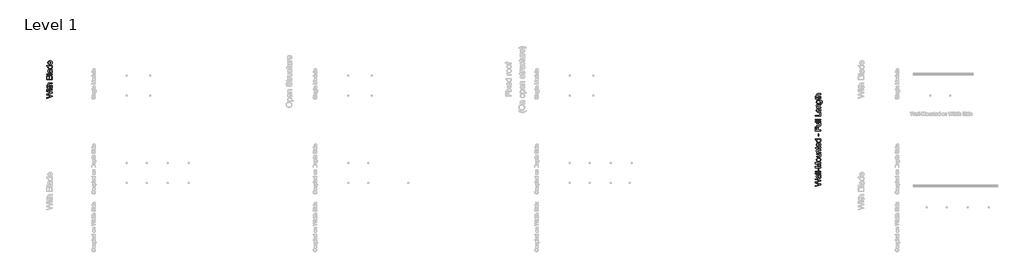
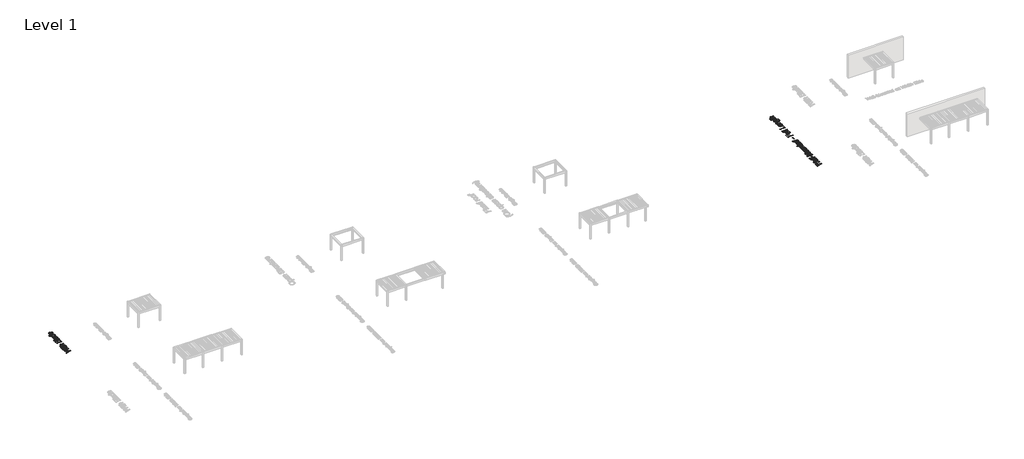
# One storey, part 50 of 80: 2 proxies.
"""IFC4 building model written with IfcOpenShell, lengths in millimetres."""

from ifc_helpers import new_model, si_unit, origin, origin_with_axes, place, context, project, spatial, polyline, outline, extrude, element, save

model = new_model("IFC4")

# Units and contexts
model_context = context("Model", 3, world=origin())
ifc_project = project(units=[si_unit("LENGTHUNIT", "METRE", prefix="MILLI")], contexts=[model_context])

# Site, building, storey
site = spatial("IfcSite", under=ifc_project)
building = spatial("IfcBuilding", under=site)
storey = spatial("IfcBuildingStorey", under=building, Name="Level 1", Elevation=0.0)

# Proxies
placement = place(None, origin())
element("IfcBuildingElementProxy", 1, Name="800mm Arial", ObjectType="800mm Arial", at=placement, inside=storey, context=model_context, shape_type="SweptSolid", body=[
    extrude(outline(polyline([(4831.971127, 65919.511302), (4032.5824286, 65701.5139446), (4032.5824286, 65804.560144), (4557.9619149, 65931.0259342), (4720.142581, 65970.0585854), (4576.6975875, 66011.8235223), (4032.5824286, 66170.2960865), (4032.5824286, 66318.8153247), (4427.0073699, 66433.961646), (4573.3798122, 66483.289159), (4720.142581, 66519.6383156), (4562.6458331, 66557.4999873), (4032.5824286, 66685.136757), (4032.5824286, 66788.1829564), (4831.971127, 66569.9904357), (4831.971127, 66463.2361344), (4215.2552366, 66271.5858166), (4129.1882405, 66244.8484505), (4232.8199297, 66214.793309), (4831.971127, 66040.1221945), (4831.971127, 65919.511302)])), origin_with_axes(), (0.0, 0.0, 1.0), 5.0),
    extrude(outline(polyline([(4831.971127, 66875.6160953), (4244.9200516, 66875.6160953), (4244.9200516, 66975.5396826), (4831.971127, 66975.5396826), (4831.971127, 66875.6160953)])), origin_with_axes(), (0.0, 0.0, 1.0), 5.0),
    extrude(outline(polyline([(4132.5060159, 66875.6160953), (4032.5824286, 66875.6160953), (4032.5824286, 66975.5396826), (4132.5060159, 66975.5396826), (4132.5060159, 66875.6160953)])), origin_with_axes(), (0.0, 0.0, 1.0), 5.0),
    extrude(outline(polyline([(4748.6364165, 67337.7626865), (4834.8985758, 67350.2531349), (4842.0708255, 67310.6837847), (4844.4615754, 67275.5056077), (4840.3143562, 67227.5442374), (4827.8726986, 67191.7805707), (4808.6979086, 67166.506929), (4784.3512924, 67150.0156338), (4742.5375647, 67140.9405424), (4670.9614404, 67137.9155119), (4344.8436389, 67137.9155119), (4344.8436389, 67062.9728215), (4244.9200516, 67062.9728215), (4244.9200516, 67137.9155119), (4102.2557112, 67137.9155119), (4043.511571, 67237.8390992), (4244.9200516, 67237.8390992), (4244.9200516, 67337.7626865), (4344.8436389, 67337.7626865), (4344.8436389, 67237.8390992), (4668.0339916, 67237.8390992), (4700.9190003, 67239.1564512), (4719.5570913, 67243.1085071), (4729.8763484, 67250.0124073), (4737.8048557, 67260.1852921), (4742.854705, 67274.6029776), (4744.5379881, 67294.2412803), (4748.6364165, 67337.7626865)])), origin_with_axes(), (0.0, 0.0, 1.0), 5.0),
    extrude(outline(polyline([(4831.971127, 67437.6862738), (4032.5824286, 67437.6862738), (4032.5824286, 67537.6098611), (4326.4982928, 67537.6098611), (4285.3432411, 67574.312751), (4255.9467756, 67615.5287912), (4238.3088963, 67661.2579817), (4232.4296032, 67711.5003226), (4234.0336012, 67742.7386413), (4238.8455953, 67771.8545596), (4246.8655853, 67798.8480775), (4258.0935714, 67823.719195), (4272.1514247, 67845.8336315), (4288.6610165, 67864.5571064), (4307.6223466, 67879.8896198), (4329.0354151, 67891.8311715), (4354.2236729, 67900.7964836), (4384.5105708, 67907.200278), (4460.3802867, 67912.3233134), (4831.971127, 67912.3233134), (4831.971127, 67812.3997262), (4470.7239393, 67812.3997262), (4436.9850913, 67810.4115005), (4408.1741156, 67804.4468235), (4384.2910121, 67794.5056951), (4365.3357808, 67780.5881154), (4350.9058976, 67763.0234223), (4340.5988381, 67742.1409538), (4334.4146024, 67717.94071), (4332.3531905, 67690.4226909), (4337.9153433, 67648.1942413), (4354.6018017, 67608.5517048), (4366.7141213, 67590.7552554), (4380.8024689, 67575.7154869), (4396.8668444, 67563.4323995), (4414.907248, 67553.905993), (4460.2339143, 67541.6838941), (4520.1002432, 67537.6098611), (4831.971127, 67537.6098611), (4831.971127, 67437.6862738)])), origin_with_axes(), (0.0, 0.0, 1.0), 5.0),
    extrude(outline(polyline([(4831.971127, 68374.4699047), (4032.5824286, 68374.4699047), (4032.5824286, 68679.5100745), (4034.0522519, 68723.757244), (4038.4617217, 68763.4058793), (4045.8108381, 68798.4559804), (4056.099601, 68828.9075473), (4069.4377898, 68855.5351341), (4085.9351838, 68879.113295), (4105.5917831, 68899.64203), (4128.4075875, 68917.1213392), (4153.0957395, 68931.0816109), (4178.3693812, 68941.0532335), (4204.2285126, 68947.0362071), (4230.6731339, 68949.0305316), (4255.0990352, 68947.3533474), (4278.805272, 68942.3217947), (4301.7918443, 68933.9358735), (4324.0587521, 68922.1955838), (4344.9107263, 68907.0643326), (4363.6524977, 68888.5055267), (4380.2840665, 68866.5191661), (4394.8054326, 68841.1052508), (4407.6618121, 68871.2640728), (4424.3726659, 68897.7269906), (4444.937994, 68920.4940042), (4469.3577965, 68939.5651137), (4496.8880134, 68954.6353764), (4526.7845847, 68965.3998497), (4559.0475105, 68971.8585338), (4593.6767909, 68974.0114284), (4649.420296, 68968.1321353), (4701.1141635, 68950.494256), (4745.074687, 68924.1716118), (4777.61816, 68892.238024), (4801.1841233, 68853.1321865), (4818.2121174, 68805.2927932), (4828.5313746, 68747.1585382), (4831.971127, 68677.1681154), (4831.971127, 68374.4699047)]), holes=[polyline([(4732.0475397, 68474.393492), (4732.0475397, 68679.3149112), (4728.1442745, 68753.4769487), (4719.483905, 68787.898868), (4706.3835714, 68816.2219356), (4687.6235034, 68839.2511999), (4661.9839306, 68857.7917092), (4630.6114371, 68870.0138082), (4594.6526071, 68874.0878411), (4552.8876703, 68869.3063414), (4516.9776311, 68854.961842), (4501.7122051, 68843.9168215), (4488.8985176, 68829.907759), (4478.5365684, 68812.9346545), (4470.6263577, 68792.9975081), (4460.5998454, 68740.7181508), (4457.2576746, 68669.5567484), (4457.2576746, 68474.393492), (4732.0475397, 68474.393492)]), polyline([(4357.3340873, 68474.393492), (4357.3340873, 68656.8711367), (4355.1872915, 68720.6895216), (4348.746904, 68763.4302747), (4333.938892, 68800.7308521), (4311.7634669, 68827.5414045), (4282.5621647, 68843.7155594), (4246.6765209, 68849.1069443), (4211.8398796, 68844.0814905), (4181.4919933, 68829.0051289), (4157.804053, 68804.560931), (4142.9472501, 68771.4319683), (4135.1163245, 68720.59194), (4132.5060159, 68643.0145455), (4132.5060159, 68474.393492), (4357.3340873, 68474.393492)])]), origin_with_axes(), (0.0, 0.0, 1.0), 5.0),
    extrude(outline(polyline([(4831.971127, 69098.9159125), (4032.5824286, 69098.9159125), (4032.5824286, 69198.8394998), (4831.971127, 69198.8394998), (4831.971127, 69098.9159125)])), origin_with_axes(), (0.0, 0.0, 1.0), 5.0),
    extrude(outline(polyline([(4757.0284365, 69723.4383331), (4797.9639295, 69675.6965215), (4813.125675, 69651.2950156), (4824.7500865, 69626.5397763), (4839.5337031, 69574.8459088), (4844.4615754, 69519.4927302), (4841.4975334, 69475.0016065), (4832.6054075, 69435.9872518), (4817.7851978, 69402.449666), (4797.0369041, 69374.388849), (4771.6778784, 69352.2317205), (4743.0254728, 69336.4052002), (4711.0796873, 69326.909288), (4675.8405218, 69323.743984), (4634.4171206, 69328.5254837), (4596.799403, 69342.8699831), (4564.5974656, 69364.9966173), (4539.4214056, 69393.1245216), (4520.3929881, 69426.1802982), (4506.6339785, 69463.090549), (4491.6064077, 69549.5478716), (4475.798184, 69651.7158364), (4457.2576746, 69722.8528434), (4435.0090634, 69723.4383331), (4410.7844242, 69721.7184569), (4390.4142593, 69716.5588283), (4373.8985687, 69707.9594473), (4361.2373524, 69695.920314), (4348.6005316, 69675.1110318), (4339.574231, 69649.7642038), (4334.1584506, 69619.8798302), (4332.3531905, 69585.4579108), (4337.1590857, 69525.9331176), (4343.1664547, 69502.9038534), (4351.5767713, 69484.363344), (4363.0487114, 69469.1284123), (4378.2409512, 69456.015881), (4397.1534905, 69445.0257501), (4419.7863294, 69436.1580197), (4407.295881, 69336.2344324), (4352.6501692, 69353.5795668), (4329.7184865, 69365.4540312), (4309.7142527, 69379.4630937), (4292.2349436, 69396.2105406), (4276.8780349, 69416.3001583), (4263.6435265, 69439.7319468), (4252.5314186, 69466.505906), (4237.4550571, 69527.9091456), (4232.4296032, 69598.3386858), (4236.8695673, 69665.8895679), (4250.1894595, 69719.4374864), (4270.2180887, 69759.811885), (4294.7842636, 69787.8422077), (4325.1565454, 69806.4315079), (4362.6034952, 69818.482839), (4397.1473916, 69822.1421501), (4450.0366341, 69823.3619204), (4574.3556285, 69823.3619204), (4682.6468404, 69824.6304816), (4747.9533451, 69828.4361651), (4790.8648661, 69835.9499505), (4831.971127, 69848.3428172), (4831.971127, 69748.4192299), (4797.2320673, 69732.4158429), (4757.0284365, 69723.4383331)]), holes=[polyline([(4557.1812619, 69723.4383331), (4573.8189295, 69656.3021729), (4587.8218932, 69562.2334833), (4595.482051, 69510.3932433), (4604.0204434, 69476.2640689), (4615.0959582, 69453.8934806), (4630.3674831, 69437.3289992), (4648.6640384, 69427.0829282), (4668.8146446, 69423.6675712), (4684.3423212, 69425.527721), (4698.5282504, 69431.1081704), (4711.3724322, 69440.4089193), (4722.8748666, 69453.4299679), (4732.3524823, 69470.0493389), (4739.1222077, 69490.1450555), (4744.5379881, 69540.7655251), (4738.5611133, 69594.4354206), (4731.0900199, 69618.9284093), (4720.6304892, 69641.8600919), (4694.2102633, 69680.3072535), (4662.7645836, 69707.0446196), (4630.3674831, 69718.9007874), (4585.4799341, 69722.8528434), (4557.1812619, 69723.4383331)])]), origin_with_axes(), (0.0, 0.0, 1.0), 5.0),
    extrude(outline(polyline([(4831.971127, 70322.9798569), (4737.7072741, 70322.9798569), (4784.4122809, 70293.0832855), (4802.7606764, 70275.765596), (4817.7730001, 70256.8683038), (4829.4492518, 70236.391409), (4837.7894315, 70214.3349116), (4842.7935394, 70190.6988116), (4844.4615754, 70165.4831089), (4842.0464301, 70132.5005186), (4834.8009942, 70100.8840711), (4822.7252677, 70070.6337663), (4805.8192506, 70041.7496044), (4784.5891476, 70015.1342153), (4759.5411634, 69991.6902291), (4730.675298, 69971.4176458), (4697.9915514, 69954.3164655), (4662.1120065, 69940.7404215), (4623.6587461, 69931.0432472), (4582.6317703, 69925.2249426), (4539.0310791, 69923.2855077), (4496.2293374, 69925.0724713), (4455.4524145, 69930.433362), (4416.7003104, 69939.3681798), (4379.9730251, 69951.8769248), (4346.3439564, 69967.953498), (4316.8865024, 69987.5918007), (4291.600663, 70010.7918328), (4270.4864382, 70037.5535944), (4253.8365729, 70066.9317633), (4241.943812, 70097.9810176), (4234.8081554, 70130.7013573), (4232.4296032, 70165.0927824), (4234.1311828, 70190.2444471), (4239.2359218, 70213.9811782), (4247.74382, 70236.3029756), (4259.6548775, 70257.2098395), (4290.9541847, 70293.8517409), (4330.4015579, 70322.9798569), (4032.5824286, 70322.9798569), (4032.5824286, 70422.9034442), (4831.971127, 70422.9034442), (4831.971127, 70322.9798569)]), holes=[polyline([(4538.6407525, 70023.209095), (4587.0961298, 70026.0267645), (4629.0257357, 70034.4797731), (4664.4295702, 70048.5681206), (4693.3076333, 70068.2918072), (4715.7209135, 70091.8455727), (4731.7303994, 70117.424157), (4741.3360909, 70145.0275601), (4744.5379881, 70174.655782), (4741.4824633, 70204.4242775), (4732.3158891, 70231.8630115), (4717.0382655, 70256.9719842), (4695.6495923, 70279.7511956), (4667.9791019, 70298.6637349), (4633.8560263, 70312.1726916), (4593.2803655, 70320.2780655), (4546.2521195, 70322.9798569), (4494.6924267, 70320.2292747), (4450.4757514, 70311.9775283), (4413.6020937, 70298.2246176), (4384.0714534, 70278.9705426), (4361.4447134, 70255.6912254), (4345.2827562, 70229.8625882), (4335.5855819, 70201.4846309), (4332.3531905, 70170.5573536), (4335.457506, 70140.343642), (4344.7704527, 70112.7402389), (4360.2920304, 70087.7471444), (4382.0222393, 70065.3643584), (4410.4367896, 70046.9214307), (4446.011392, 70033.7479108), (4488.7460463, 70025.843799), (4538.6407525, 70023.209095)])]), origin_with_axes(), (0.0, 0.0, 1.0), 5.0),
    extrude(outline(polyline([(4657.1048492, 70983.8026432), (4669.5952976, 71081.7745979), (4708.8353099, 71066.753126), (4743.4157994, 71046.4744439), (4773.3367661, 71020.9385515), (4798.5982101, 70990.145449), (4818.6634324, 70954.4122765), (4832.9957341, 70914.0561744), (4841.595115, 70869.0771426), (4844.4615754, 70819.4751812), (4839.5154066, 70757.4742542), (4824.6769002, 70702.2308549), (4799.9460563, 70653.7449834), (4765.3228749, 70612.0166397), (4721.7709744, 70578.4607573), (4670.2539736, 70554.4922698), (4610.7718723, 70540.1111774), (4543.3246707, 70535.3174799), (4473.5903996, 70540.1599682), (4412.1261716, 70554.6874331), (4358.9319865, 70578.8998746), (4335.4361601, 70594.6379616), (4314.0078444, 70612.7972927), (4278.3173639, 70654.4158571), (4252.8241635, 70701.7917376), (4237.5282433, 70754.9249342), (4232.4296032, 70813.8154468), (4237.5160456, 70870.8092165), (4252.7753727, 70922.3506128), (4278.2075845, 70968.4396356), (4313.8126811, 71009.0762849), (4358.6392416, 71042.2479396), (4411.735845, 71065.9419787), (4473.1024915, 71080.1584022), (4542.7391809, 71084.89721), (4569.6717103, 71084.3117202), (4569.6717103, 70635.2410672), (4609.5460031, 70641.0288775), (4644.4680283, 70652.5374108), (4674.4377859, 70669.766667), (4699.4552758, 70692.7166462), (4719.1789624, 70720.1187872), (4733.26731, 70750.7045288), (4741.7203186, 70784.473871), (4744.5379881, 70821.4268138), (4739.317371, 70874.6088012), (4723.6555196, 70919.3987685), (4711.6651771, 70938.6467447), (4696.5766178, 70955.7967159), (4678.3898419, 70970.848682), (4657.1048492, 70983.8026432)]), holes=[polyline([(4469.748123, 70635.2410672), (4469.748123, 70984.9736227), (4441.4738462, 70979.8383895), (4416.9564622, 70971.4585672), (4396.1959708, 70959.8341557), (4379.192372, 70944.9651551), (4358.7002301, 70917.7154854), (4344.0629859, 70886.7089231), (4335.2806393, 70851.945468), (4332.3531905, 70813.4251203), (4334.6890507, 70778.2896353), (4341.6966314, 70746.0694014), (4353.3759325, 70716.7644187), (4369.7269541, 70690.3746871), (4389.9934385, 70668.2297564), (4413.4191281, 70651.6591761), (4440.004023, 70640.6629464), (4469.748123, 70635.2410672)])]), origin_with_axes(), (0.0, 0.0, 1.0), 5.0),
])
element("IfcBuildingElementProxy", 2, Name="800mm Arial", ObjectType="800mm Arial", at=placement, inside=storey, context=model_context, shape_type="SweptSolid", body=[
    extrude(outline(polyline([(114831.971127, 53293.5398935), (114032.5824286, 53075.5425361), (114032.5824286, 53178.5887355), (114557.9619149, 53305.0545256), (114720.142581, 53344.0871769), (114576.6975875, 53385.8521138), (114032.5824286, 53544.324678), (114032.5824286, 53692.8439162), (114427.0073699, 53807.9902375), (114573.3798122, 53857.3177505), (114720.142581, 53893.666907), (114562.6458331, 53931.5285788), (114032.5824286, 54059.1653485), (114032.5824286, 54162.2115479), (114831.971127, 53944.0190272), (114831.971127, 53837.2647259), (114215.2552366, 53645.6144081), (114129.1882405, 53618.877042), (114232.8199297, 53588.8219005), (114831.971127, 53414.150786), (114831.971127, 53293.5398935)])), origin_with_axes(), (0.0, 0.0, 1.0), 5.0),
    extrude(outline(polyline([(114757.0284365, 54624.3581391), (114797.9639295, 54576.6163275), (114813.125675, 54552.2148216), (114824.7500865, 54527.4595823), (114839.5337031, 54475.7657147), (114844.4615754, 54420.4125361), (114841.4975334, 54375.9214125), (114832.6054075, 54336.9070578), (114817.7851978, 54303.3694719), (114797.0369041, 54275.308655), (114771.6778784, 54253.1515265), (114743.0254728, 54237.3250062), (114711.0796873, 54227.829094), (114675.8405218, 54224.6637899), (114634.4171206, 54229.4452897), (114596.799403, 54243.7897891), (114564.5974656, 54265.9164233), (114539.4214056, 54294.0443276), (114520.3929881, 54327.1001042), (114506.6339785, 54364.010355), (114491.6064077, 54450.4676776), (114475.798184, 54552.6356424), (114457.2576746, 54623.7726493), (114435.0090634, 54624.3581391), (114410.7844242, 54622.6382629), (114390.4142593, 54617.4786343), (114373.8985687, 54608.8792533), (114361.2373524, 54596.8401199), (114348.6005316, 54576.0308377), (114339.574231, 54550.6840098), (114334.1584506, 54520.7996362), (114332.3531905, 54486.3777168), (114337.1590857, 54426.8529236), (114343.1664547, 54403.8236593), (114351.5767713, 54385.28315), (114363.0487114, 54370.0482183), (114378.2409512, 54356.935687), (114397.1534905, 54345.9455561), (114419.7863294, 54337.0778256), (114407.295881, 54237.1542383), (114352.6501692, 54254.4993728), (114329.7184865, 54266.3738371), (114309.7142527, 54280.3828996), (114292.2349436, 54297.1303466), (114276.8780349, 54317.2199643), (114263.6435265, 54340.6517528), (114252.5314186, 54367.425712), (114237.4550571, 54428.8289516), (114232.4296032, 54499.2584917), (114236.8695673, 54566.8093739), (114250.1894595, 54620.3572923), (114270.2180887, 54660.731691), (114294.7842636, 54688.7620137), (114325.1565454, 54707.3513139), (114362.6034952, 54719.402645), (114397.1473916, 54723.061956), (114450.0366341, 54724.2817264), (114574.3556285, 54724.2817264), (114682.6468404, 54725.5502876), (114747.9533451, 54729.3559711), (114790.8648661, 54736.8697564), (114831.971127, 54749.2626232), (114831.971127, 54649.3390359), (114797.2320673, 54633.3356489), (114757.0284365, 54624.3581391)]), holes=[polyline([(114557.1812619, 54624.3581391), (114573.8189295, 54557.2219789), (114587.8218932, 54463.1532893), (114595.482051, 54411.3130493), (114604.0204434, 54377.1838748), (114615.0959582, 54354.8132866), (114630.3674831, 54338.2488052), (114648.6640384, 54328.0027342), (114668.8146446, 54324.5873772), (114684.3423212, 54326.447527), (114698.5282504, 54332.0279764), (114711.3724322, 54341.3287253), (114722.8748666, 54354.3497738), (114732.3524823, 54370.9691449), (114739.1222077, 54391.0648614), (114744.5379881, 54441.6853311), (114738.5611133, 54495.3552266), (114731.0900199, 54519.8482153), (114720.6304892, 54542.7798979), (114694.2102633, 54581.2270594), (114662.7645836, 54607.9644256), (114630.3674831, 54619.8205934), (114585.4799341, 54623.7726493), (114557.1812619, 54624.3581391)])]), origin_with_axes(), (0.0, 0.0, 1.0), 5.0),
    extrude(outline(polyline([(114831.971127, 54861.6766589), (114032.5824286, 54861.6766589), (114032.5824286, 54961.6002462), (114831.971127, 54961.6002462), (114831.971127, 54861.6766589)])), origin_with_axes(), (0.0, 0.0, 1.0), 5.0),
    extrude(outline(polyline([(114831.971127, 55111.4856272), (114032.5824286, 55111.4856272), (114032.5824286, 55211.4092144), (114831.971127, 55211.4092144), (114831.971127, 55111.4856272)])), origin_with_axes(), (0.0, 0.0, 1.0), 5.0),
    extrude(outline(polyline([(114594.6526071, 55311.3328017), (114494.7290198, 55311.3328017), (114494.7290198, 55623.594012), (114594.6526071, 55623.594012), (114594.6526071, 55311.3328017)])), origin_with_axes(), (0.0, 0.0, 1.0), 5.0),
    extrude(outline(polyline([(114831.971127, 55748.4984961), (114032.5824286, 55748.4984961), (114032.5824286, 55920.4373251), (114596.0187499, 56083.984134), (114713.7021936, 56116.9667243), (114586.2605871, 56152.6816002), (114032.5824286, 56313.4961235), (114032.5824286, 56485.4349524), (114831.971127, 56485.4349524), (114831.971127, 56385.5113651), (114132.5060159, 56385.5113651), (114831.971127, 56184.6883743), (114831.971127, 56049.2450743), (114132.5060159, 55848.4220834), (114831.971127, 55848.4220834), (114831.971127, 55748.4984961)])), origin_with_axes(), (0.0, 0.0, 1.0), 5.0),
    extrude(outline(polyline([(114538.4455893, 56622.829885), (114462.4173032, 56628.2334676), (114428.3460678, 56634.9879459), (114396.9034376, 56644.4442156), (114368.0894124, 56656.6022766), (114341.9039924, 56671.4621289), (114318.3471774, 56689.0237726), (114297.4189676, 56709.2872076), (114268.9861207, 56747.368438), (114248.6769443, 56789.4017243), (114236.4914385, 56835.3870666), (114232.4296032, 56885.3244649), (114237.375772, 56940.4519859), (114252.2142783, 56990.2979014), (114276.9451222, 57034.8622112), (114311.5683037, 57074.1449155), (114354.9128432, 57106.2065792), (114405.8077611, 57129.1077675), (114464.2530576, 57142.8484806), (114530.2487325, 57147.4287182), (114583.7356625, 57145.4038995), (114631.1969269, 57139.3294431), (114672.6325258, 57129.2053492), (114708.0424591, 57115.0316177), (114738.6282007, 57096.9851153), (114765.5912244, 57075.2427088), (114788.9315301, 57049.8043981), (114808.6491178, 57020.6701832), (114824.317068, 56988.9744506), (114835.508461, 56955.8515867), (114842.2232968, 56921.3015914), (114844.4615754, 56885.3244649), (114839.5337031, 56829.3918953), (114824.7500865, 56779.0824671), (114800.1107253, 56734.3961803), (114765.6156198, 56695.3330347), (114721.8502595, 56663.6129067), (114669.4001344, 56640.9556724), (114608.2652443, 56627.3613318), (114538.4455893, 56622.829885)]), holes=[polyline([(114538.250426, 56722.7534723), (114586.718001, 56725.644328), (114628.6842, 56734.3168952), (114664.149023, 56748.7711739), (114693.11247, 56769.007164), (114715.6111342, 56793.6221297), (114731.6816086, 56821.2133351), (114741.3238932, 56851.7807802), (114744.5379881, 56885.3244649), (114741.3055966, 56918.6973817), (114731.6084223, 56949.1428497), (114715.4464652, 56976.6608689), (114692.8197251, 57001.2514392), (114663.5696321, 57021.4874293), (114627.5376158, 57035.941708), (114584.7236765, 57044.6142752), (114535.1278139, 57047.505131), (114488.1971496, 57044.5959787), (114447.3287439, 57035.8685218), (114412.5225969, 57021.3227603), (114383.7787086, 57000.9586943), (114361.2800444, 56976.2766412), (114345.20957, 56948.7769186), (114335.5672854, 56918.4595265), (114332.3531905, 56885.3244649), (114335.5550877, 56851.7807802), (114345.1607792, 56821.2133351), (114361.1702651, 56793.6221297), (114383.5835453, 56769.007164), (114412.4616084, 56748.7711739), (114447.8654429, 56734.3168952), (114489.7950488, 56725.644328), (114538.250426, 56722.7534723)])]), origin_with_axes(), (0.0, 0.0, 1.0), 5.0),
    extrude(outline(polyline([(114831.971127, 57634.5562063), (114731.0717234, 57634.5562063), (114757.6474699, 57617.2232696), (114780.6797836, 57598.402213), (114800.1686644, 57578.0930367), (114816.1141124, 57556.2957405), (114828.5161274, 57533.0103244), (114837.3747096, 57508.2367886), (114842.6898589, 57481.9751329), (114844.4615754, 57454.2253574), (114839.4849123, 57405.5565203), (114824.5549232, 57360.2542494), (114802.1111487, 57322.2462052), (114774.5931296, 57295.4600482), (114741.1714219, 57277.4318424), (114701.0165819, 57265.6976516), (114663.1549101, 57261.3064784), (114608.1188718, 57259.8427539), (114244.9200516, 57259.8427539), (114244.9200516, 57359.7663412), (114561.084527, 57359.7663412), (114624.3174221, 57361.2788565), (114662.9597469, 57365.8164022), (114680.9696561, 57371.7993758), (114696.9425489, 57380.3804602), (114710.8784252, 57391.5596555), (114722.777285, 57405.3369616), (114732.2975926, 57421.2976567), (114739.0978123, 57439.0270188), (114744.5379881, 57479.7917439), (114738.9758353, 57522.8984282), (114722.2893768, 57563.2240361), (114710.1587607, 57581.2705384), (114696.0155234, 57596.4749759), (114679.8596651, 57608.8373484), (114661.6911857, 57618.357656), (114614.6812363, 57630.5065687), (114550.3505479, 57634.5562063), (114244.9200516, 57634.5562063), (114244.9200516, 57734.4797936), (114831.971127, 57734.4797936), (114831.971127, 57634.5562063)])), origin_with_axes(), (0.0, 0.0, 1.0), 5.0),
    extrude(outline(polyline([(114831.971127, 57871.8747261), (114244.9200516, 57871.8747261), (114244.9200516, 57971.7983134), (114326.8886193, 57971.7983134), (114304.7497874, 57988.2835097), (114285.5627998, 58006.5129776), (114269.3276564, 58026.4867172), (114256.0443572, 58048.2047283), (114245.7129023, 58071.667011), (114238.3332917, 58096.8735654), (114232.4296032, 58152.5194889), (114237.1867076, 58201.7738157), (114251.4580207, 58246.8809233), (114273.4626779, 58284.498641), (114301.4198144, 58311.284798), (114335.2562439, 58329.4593762), (114374.8987804, 58341.2423578), (114412.809243, 58345.1944138), (114471.5045923, 58346.5117658), (114831.971127, 58346.5117658), (114831.971127, 58246.5881785), (114484.970857, 58246.5881785), (114433.3013849, 58243.7095204), (114396.5619019, 58235.0735463), (114370.2392576, 58219.1433455), (114349.8203019, 58194.3820074), (114336.7199684, 58162.6435828), (114332.3531905, 58125.7821227), (114334.8049289, 58095.4403352), (114342.1601441, 58067.2575412), (114354.4188362, 58041.2337407), (114371.581005, 58017.3689338), (114395.5982833, 57997.4317874), (114428.4223035, 57983.1909685), (114470.0530656, 57974.6464772), (114520.4905697, 57971.7983134), (114831.971127, 57971.7983134), (114831.971127, 57871.8747261)])), origin_with_axes(), (0.0, 0.0, 1.0), 5.0),
    extrude(outline(polyline([(114748.6364165, 58696.2443213), (114834.8985758, 58708.7347697), (114842.0708255, 58669.1654195), (114844.4615754, 58633.9872425), (114840.3143562, 58586.0258722), (114827.8726986, 58550.2622055), (114808.6979086, 58524.9885638), (114784.3512924, 58508.4972686), (114742.5375647, 58499.4221772), (114670.9614404, 58496.3971467), (114344.8436389, 58496.3971467), (114344.8436389, 58421.4544562), (114244.9200516, 58421.4544562), (114244.9200516, 58496.3971467), (114102.2557112, 58496.3971467), (114043.511571, 58596.320734), (114244.9200516, 58596.320734), (114244.9200516, 58696.2443213), (114344.8436389, 58696.2443213), (114344.8436389, 58596.320734), (114668.0339916, 58596.320734), (114700.9190003, 58597.638086), (114719.5570913, 58601.5901419), (114729.8763484, 58608.4940421), (114737.8048557, 58618.6669269), (114742.854705, 58633.0846124), (114744.5379881, 58652.7229151), (114748.6364165, 58696.2443213)])), origin_with_axes(), (0.0, 0.0, 1.0), 5.0),
    extrude(outline(polyline([(114657.1048492, 59207.1817266), (114669.5952976, 59305.1536813), (114708.8353099, 59290.1322095), (114743.4157994, 59269.8535273), (114773.3367661, 59244.317635), (114798.5982101, 59213.5245325), (114818.6634324, 59177.79136), (114832.9957341, 59137.4352579), (114841.595115, 59092.4562261), (114844.4615754, 59042.8542647), (114839.5154066, 58980.8533377), (114824.6769002, 58925.6099384), (114799.9460563, 58877.1240669), (114765.3228749, 58835.3957231), (114721.7709744, 58801.8398407), (114670.2539736, 58777.8713533), (114610.7718723, 58763.4902608), (114543.3246707, 58758.6965633), (114473.5903996, 58763.5390516), (114412.1261716, 58778.0665165), (114358.9319865, 58802.278958), (114335.4361601, 58818.017045), (114314.0078444, 58836.1763761), (114278.3173639, 58877.7949406), (114252.8241635, 58925.1708211), (114237.5282433, 58978.3040176), (114232.4296032, 59037.1945303), (114237.5160456, 59094.1883), (114252.7753727, 59145.7296963), (114278.2075845, 59191.818719), (114313.8126811, 59232.4553683), (114358.6392416, 59265.6270231), (114411.735845, 59289.3210622), (114473.1024915, 59303.5374856), (114542.7391809, 59308.2762935), (114569.6717103, 59307.6908037), (114569.6717103, 58858.6201506), (114609.5460031, 58864.407961), (114644.4680283, 58875.9164942), (114674.4377859, 58893.1457505), (114699.4552758, 58916.0957297), (114719.1789624, 58943.4978706), (114733.26731, 58974.0836122), (114741.7203186, 59007.8529544), (114744.5379881, 59044.8058973), (114739.317371, 59097.9878846), (114723.6555196, 59142.777852), (114711.6651771, 59162.0258282), (114696.5766178, 59179.1757993), (114678.3898419, 59194.2277655), (114657.1048492, 59207.1817266)]), holes=[polyline([(114469.748123, 58858.6201506), (114469.748123, 59208.3527062), (114441.4738462, 59203.217473), (114416.9564622, 59194.8376507), (114396.1959708, 59183.2132392), (114379.192372, 59168.3442386), (114358.7002301, 59141.0945689), (114344.0629859, 59110.0880065), (114335.2806393, 59075.3245515), (114332.3531905, 59036.8042038), (114334.6890507, 59001.6687187), (114341.6966314, 58969.4484849), (114353.3759325, 58940.1435022), (114369.7269541, 58913.7537706), (114389.9934385, 58891.6088398), (114413.4191281, 58875.0382596), (114440.004023, 58864.0420299), (114469.748123, 58858.6201506)])]), origin_with_axes(), (0.0, 0.0, 1.0), 5.0),
    extrude(outline(polyline([(114831.971127, 59770.4228847), (114737.7072741, 59770.4228847), (114784.4122809, 59740.5263133), (114802.7606764, 59723.2086238), (114817.7730001, 59704.3113316), (114829.4492518, 59683.8344368), (114837.7894315, 59661.7779394), (114842.7935394, 59638.1418394), (114844.4615754, 59612.9261367), (114842.0464301, 59579.9435464), (114834.8009942, 59548.3270989), (114822.7252677, 59518.0767941), (114805.8192506, 59489.1926322), (114784.5891476, 59462.5772431), (114759.5411634, 59439.1332569), (114730.675298, 59418.8606736), (114697.9915514, 59401.7594933), (114662.1120065, 59388.1834493), (114623.6587461, 59378.486275), (114582.6317703, 59372.6679704), (114539.0310791, 59370.7285355), (114496.2293374, 59372.5154991), (114455.4524145, 59377.8763898), (114416.7003104, 59386.8112076), (114379.9730251, 59399.3199526), (114346.3439564, 59415.3965258), (114316.8865024, 59435.0348285), (114291.600663, 59458.2348606), (114270.4864382, 59484.9966221), (114253.8365729, 59514.3747911), (114241.943812, 59545.4240454), (114234.8081554, 59578.1443851), (114232.4296032, 59612.5358102), (114234.1311828, 59637.6874749), (114239.2359218, 59661.424206), (114247.74382, 59683.7460034), (114259.6548775, 59704.6528673), (114290.9541847, 59741.2947687), (114330.4015579, 59770.4228847), (114032.5824286, 59770.4228847), (114032.5824286, 59870.346472), (114831.971127, 59870.346472), (114831.971127, 59770.4228847)]), holes=[polyline([(114538.6407525, 59470.6521228), (114587.0961298, 59473.4697923), (114629.0257357, 59481.9228009), (114664.4295702, 59496.0111484), (114693.3076333, 59515.734835), (114715.7209135, 59539.2886005), (114731.7303994, 59564.8671848), (114741.3360909, 59592.4705879), (114744.5379881, 59622.0988098), (114741.4824633, 59651.8673052), (114732.3158891, 59679.3060393), (114717.0382655, 59704.415012), (114695.6495923, 59727.1942234), (114667.9791019, 59746.1067627), (114633.8560263, 59759.6157194), (114593.2803655, 59767.7210933), (114546.2521195, 59770.4228847), (114494.6924267, 59767.6723025), (114450.4757514, 59759.4205561), (114413.6020937, 59745.6676454), (114384.0714534, 59726.4135704), (114361.4447134, 59703.1342532), (114345.2827562, 59677.305616), (114335.5855819, 59648.9276587), (114332.3531905, 59618.0003814), (114335.457506, 59587.7866698), (114344.7704527, 59560.1832667), (114360.2920304, 59535.1901722), (114382.0222393, 59512.8073862), (114410.4367896, 59494.3644585), (114446.011392, 59481.1909386), (114488.7460463, 59473.2868268), (114538.6407525, 59470.6521228)])]), origin_with_axes(), (0.0, 0.0, 1.0), 5.0),
    extrude(outline(polyline([(114594.6526071, 60282.5312696), (114494.7290198, 60282.5312696), (114494.7290198, 60594.7924798), (114594.6526071, 60594.7924798), (114594.6526071, 60282.5312696)])), origin_with_axes(), (0.0, 0.0, 1.0), 5.0),
    extrude(outline(polyline([(114831.971127, 61031.9581743), (114032.5824286, 61031.9581743), (114032.5824286, 61569.0474559), (114132.5060159, 61569.0474559), (114132.5060159, 61131.8817615), (114369.8245357, 61131.8817615), (114369.8245357, 61506.5952139), (114469.748123, 61506.5952139), (114469.748123, 61131.8817615), (114831.971127, 61131.8817615), (114831.971127, 61031.9581743)])), origin_with_axes(), (0.0, 0.0, 1.0), 5.0),
    extrude(outline(polyline([(114831.971127, 62068.6653924), (114731.0717234, 62068.6653924), (114757.6474699, 62051.3324557), (114780.6797836, 62032.5113992), (114800.1686644, 62012.2022228), (114816.1141124, 61990.4049266), (114828.5161274, 61967.1195106), (114837.3747096, 61942.3459747), (114842.6898589, 61916.084319), (114844.4615754, 61888.3345435), (114839.4849123, 61839.6657064), (114824.5549232, 61794.3634355), (114802.1111487, 61756.3553913), (114774.5931296, 61729.5692344), (114741.1714219, 61711.5410286), (114701.0165819, 61699.8068378), (114663.1549101, 61695.4156645), (114608.1188718, 61693.9519401), (114244.9200516, 61693.9519401), (114244.9200516, 61793.8755274), (114561.084527, 61793.8755274), (114624.3174221, 61795.3880426), (114662.9597469, 61799.9255883), (114680.9696561, 61805.9085619), (114696.9425489, 61814.4896463), (114710.8784252, 61825.6688416), (114722.777285, 61839.4461477), (114732.2975926, 61855.4068428), (114739.0978123, 61873.1362049), (114744.5379881, 61913.9009301), (114738.9758353, 61957.0076143), (114722.2893768, 61997.3332222), (114710.1587607, 62015.3797246), (114696.0155234, 62030.584162), (114679.8596651, 62042.9465345), (114661.6911857, 62052.4668421), (114614.6812363, 62064.6157548), (114550.3505479, 62068.6653924), (114244.9200516, 62068.6653924), (114244.9200516, 62168.5889797), (114831.971127, 62168.5889797), (114831.971127, 62068.6653924)])), origin_with_axes(), (0.0, 0.0, 1.0), 5.0),
    extrude(outline(polyline([(114831.971127, 62305.9839122), (114032.5824286, 62305.9839122), (114032.5824286, 62405.9074995), (114831.971127, 62405.9074995), (114831.971127, 62305.9839122)])), origin_with_axes(), (0.0, 0.0, 1.0), 5.0),
    extrude(outline(polyline([(114831.971127, 62555.7928805), (114032.5824286, 62555.7928805), (114032.5824286, 62655.7164678), (114831.971127, 62655.7164678), (114831.971127, 62555.7928805)])), origin_with_axes(), (0.0, 0.0, 1.0), 5.0),
    extrude(outline(polyline([(114831.971127, 63130.3535074), (114032.5824286, 63130.3535074), (114032.5824286, 63230.2770947), (114732.0475397, 63230.2770947), (114732.0475397, 63629.9714439), (114831.971127, 63629.9714439), (114831.971127, 63130.3535074)])), origin_with_axes(), (0.0, 0.0, 1.0), 5.0),
    extrude(outline(polyline([(114657.1048492, 64140.9088492), (114669.5952976, 64238.8808039), (114708.8353099, 64223.859332), (114743.4157994, 64203.5806499), (114773.3367661, 64178.0447576), (114798.5982101, 64147.251655), (114818.6634324, 64111.5184826), (114832.9957341, 64071.1623804), (114841.595115, 64026.1833487), (114844.4615754, 63976.5813873), (114839.5154066, 63914.5804603), (114824.6769002, 63859.337061), (114799.9460563, 63810.8511895), (114765.3228749, 63769.1228457), (114721.7709744, 63735.5669633), (114670.2539736, 63711.5984759), (114610.7718723, 63697.2173834), (114543.3246707, 63692.4236859), (114473.5903996, 63697.2661742), (114412.1261716, 63711.7936391), (114358.9319865, 63736.0060806), (114335.4361601, 63751.7441676), (114314.0078444, 63769.9034987), (114278.3173639, 63811.5220632), (114252.8241635, 63858.8979437), (114237.5282433, 63912.0311402), (114232.4296032, 63970.9216528), (114237.5160456, 64027.9154226), (114252.7753727, 64079.4568188), (114278.2075845, 64125.5458416), (114313.8126811, 64166.1824909), (114358.6392416, 64199.3541456), (114411.735845, 64223.0481847), (114473.1024915, 64237.2646082), (114542.7391809, 64242.003416), (114569.6717103, 64241.4179263), (114569.6717103, 63792.3472732), (114609.5460031, 63798.1350835), (114644.4680283, 63809.6436168), (114674.4377859, 63826.872873), (114699.4552758, 63849.8228522), (114719.1789624, 63877.2249932), (114733.26731, 63907.8107348), (114741.7203186, 63941.580077), (114744.5379881, 63978.5330198), (114739.317371, 64031.7150072), (114723.6555196, 64076.5049746), (114711.6651771, 64095.7529507), (114696.5766178, 64112.9029219), (114678.3898419, 64127.9548881), (114657.1048492, 64140.9088492)]), holes=[polyline([(114469.748123, 63792.3472732), (114469.748123, 64142.0798287), (114441.4738462, 64136.9445956), (114416.9564622, 64128.5647732), (114396.1959708, 64116.9403618), (114379.192372, 64102.0713612), (114358.7002301, 64074.8216915), (114344.0629859, 64043.8151291), (114335.2806393, 64009.0516741), (114332.3531905, 63970.5313263), (114334.6890507, 63935.3958413), (114341.6966314, 63903.1756075), (114353.3759325, 63873.8706247), (114369.7269541, 63847.4808932), (114389.9934385, 63825.3359624), (114413.4191281, 63808.7653822), (114440.004023, 63797.7691524), (114469.748123, 63792.3472732)])]), origin_with_axes(), (0.0, 0.0, 1.0), 5.0),
    extrude(outline(polyline([(114831.971127, 64341.9270033), (114244.9200516, 64341.9270033), (114244.9200516, 64441.8505906), (114326.8886193, 64441.8505906), (114304.7497874, 64458.3357869), (114285.5627998, 64476.5652549), (114269.3276564, 64496.5389944), (114256.0443572, 64518.2570055), (114245.7129023, 64541.7192882), (114238.3332917, 64566.9258426), (114232.4296032, 64622.5717661), (114237.1867076, 64671.8260929), (114251.4580207, 64716.9332006), (114273.4626779, 64754.5509182), (114301.4198144, 64781.3370752), (114335.2562439, 64799.5116534), (114374.8987804, 64811.294635), (114412.809243, 64815.246691), (114471.5045923, 64816.564043), (114831.971127, 64816.564043), (114831.971127, 64716.6404557), (114484.970857, 64716.6404557), (114433.3013849, 64713.7617976), (114396.5619019, 64705.1258235), (114370.2392576, 64689.1956227), (114349.8203019, 64664.4342846), (114336.7199684, 64632.69586), (114332.3531905, 64595.8343999), (114334.8049289, 64565.4926124), (114342.1601441, 64537.3098184), (114354.4188362, 64511.2860179), (114371.581005, 64487.421211), (114395.5982833, 64467.4840646), (114428.4223035, 64453.2432457), (114470.0530656, 64444.6987544), (114520.4905697, 64441.8505906), (114831.971127, 64441.8505906), (114831.971127, 64341.9270033)])), origin_with_axes(), (0.0, 0.0, 1.0), 5.0),
    extrude(outline(polyline([(114881.9329206, 64928.9780787), (114894.423369, 65028.901666), (114911.2561999, 65033.1220714), (114925.64949, 65039.9283899), (114937.6032395, 65049.3206217), (114947.1174483, 65061.2987665), (114956.8512157, 65080.6809174), (114963.8039067, 65103.3076575), (114969.3660595, 65158.294905), (114967.7925557, 65189.4966306), (114963.0720445, 65216.9414635), (114955.2045257, 65240.6294038), (114944.1899994, 65260.5604513), (114930.3334082, 65277.1493281), (114913.9396947, 65290.8107561), (114895.0088588, 65301.5447352), (114873.5409006, 65309.3512655), (114830.5561933, 65314.7670458), (114757.0284365, 65316.1819794), (114789.8158636, 65282.9310396), (114813.2354543, 65245.8256255), (114827.2872088, 65204.865737), (114831.971127, 65160.0513743), (114826.5187535, 65105.2653889), (114810.1616331, 65057.0295703), (114797.8937927, 65035.3679735), (114782.8997657, 65015.3439185), (114744.7331513, 64980.2084335), (114698.9429723, 64952.3305821), (114648.8104108, 64932.4178311), (114594.3354668, 64920.4701805), (114535.5181404, 64916.4876303), (114494.3691876, 64918.2745938), (114454.8425293, 64923.6354845), (114416.9381656, 64932.5703024), (114380.6560965, 64945.0790473), (114347.2038945, 64960.972655), (114317.7891325, 64980.062061), (114292.4118103, 65002.3472654), (114271.071928, 65027.8282681), (114254.1659109, 65056.096446), (114242.0901844, 65086.7431761), (114234.8447485, 65119.7684584), (114232.4296032, 65155.1722929), (114237.8941744, 65201.9016951), (114254.2878879, 65244.3131102), (114281.6107438, 65282.4065384), (114319.8627421, 65316.1819794), (114244.9200516, 65316.1819794), (114244.9200516, 65416.1055667), (114751.7590286, 65416.1055667), (114815.266372, 65414.3978882), (114868.7837962, 65409.2748527), (114912.3113012, 65400.7364603), (114945.8488871, 65388.7827108), (114972.8972947, 65373.1269583), (114996.9572649, 65353.4825568), (115018.0287977, 65329.8495062), (115036.1118932, 65302.2278066), (115050.6271604, 65270.8980051), (115060.9952084, 65236.1406489), (115067.2160372, 65197.955738), (115069.2896468, 65156.3432724), (115066.3682968, 65107.3877893), (115057.6042468, 65063.3723761), (115042.9974968, 65024.2970329), (115022.5480469, 64990.1617596), (114996.2315015, 64962.5888507), (114964.0234653, 64943.200601), (114925.9239384, 64931.9970103), (114881.9329206, 64928.9780787)]), holes=[polyline([(114528.6874265, 65016.4112175), (114578.0942246, 65019.0764158), (114620.3409708, 65027.0720104), (114655.427665, 65040.3980015), (114683.3543072, 65059.0543891), (114704.6575964, 65081.7360188), (114719.8742315, 65107.1377364), (114729.0042126, 65135.2595419), (114732.0475397, 65166.1014352), (114729.0225092, 65196.638386), (114719.9474178, 65224.6260168), (114704.8222654, 65250.0643275), (114683.6470521, 65272.9533181), (114655.9948582, 65291.8658574), (114621.4387641, 65305.3748141), (114579.9787698, 65313.4801881), (114531.6148753, 65316.1819794), (114485.2697008, 65313.400903), (114444.9867849, 65305.0576738), (114410.7661276, 65291.1522918), (114382.607729, 65271.684757), (114360.6213684, 65248.3017593), (114344.9168251, 65222.6499888), (114335.4940992, 65194.7294454), (114332.3531905, 65164.5401292), (114335.4453083, 65134.8570176), (114344.7216619, 65107.4792721), (114360.1822511, 65082.4068925), (114381.827076, 65059.6398788), (114409.558555, 65040.7273395), (114443.2791064, 65027.2183829), (114482.9887302, 65019.1130089), (114528.6874265, 65016.4112175)])]), origin_with_axes(), (0.0, 0.0, 1.0), 5.0),
    extrude(outline(polyline([(114748.6364165, 65778.3285707), (114834.8985758, 65790.8190191), (114842.0708255, 65751.2496688), (114844.4615754, 65716.0714919), (114840.3143562, 65668.1101216), (114827.8726986, 65632.3464548), (114808.6979086, 65607.0728131), (114784.3512924, 65590.581518), (114742.5375647, 65581.5064265), (114670.9614404, 65578.4813961), (114344.8436389, 65578.4813961), (114344.8436389, 65503.5387056), (114244.9200516, 65503.5387056), (114244.9200516, 65578.4813961), (114102.2557112, 65578.4813961), (114043.511571, 65678.4049834), (114244.9200516, 65678.4049834), (114244.9200516, 65778.3285707), (114344.8436389, 65778.3285707), (114344.8436389, 65678.4049834), (114668.0339916, 65678.4049834), (114700.9190003, 65679.7223353), (114719.5570913, 65683.6743913), (114729.8763484, 65690.5782915), (114737.8048557, 65700.7511762), (114742.854705, 65715.1688618), (114744.5379881, 65734.8071645), (114748.6364165, 65778.3285707)])), origin_with_axes(), (0.0, 0.0, 1.0), 5.0),
    extrude(outline(polyline([(114831.971127, 65878.2521579), (114032.5824286, 65878.2521579), (114032.5824286, 65978.1757452), (114326.4982928, 65978.1757452), (114285.3432411, 66014.8786352), (114255.9467756, 66056.0946754), (114238.3088963, 66101.8238659), (114232.4296032, 66152.0662067), (114234.0336012, 66183.3045255), (114238.8455953, 66212.4204438), (114246.8655853, 66239.4139617), (114258.0935714, 66264.2850792), (114272.1514247, 66286.3995157), (114288.6610165, 66305.1229906), (114307.6223466, 66320.4555039), (114329.0354151, 66332.3970557), (114354.2236729, 66341.3623678), (114384.5105708, 66347.7661621), (114460.3802867, 66352.8891976), (114831.971127, 66352.8891976), (114831.971127, 66252.9656103), (114470.7239393, 66252.9656103), (114436.9850913, 66250.9773846), (114408.1741156, 66245.0127076), (114384.2910121, 66235.0715792), (114365.3357808, 66221.1539995), (114350.9058976, 66203.5893064), (114340.5988381, 66182.706838), (114334.4146024, 66158.5065942), (114332.3531905, 66130.988575), (114337.9153433, 66088.7601254), (114354.6018017, 66049.117589), (114366.7141213, 66031.3211395), (114380.8024689, 66016.2813711), (114396.8668444, 66003.9982836), (114414.907248, 65994.4718772), (114460.2339143, 65982.2497782), (114520.1002432, 65978.1757452), (114831.971127, 65978.1757452), (114831.971127, 65878.2521579)])), origin_with_axes(), (0.0, 0.0, 1.0), 5.0),
])

save(model, "model.ifc")
